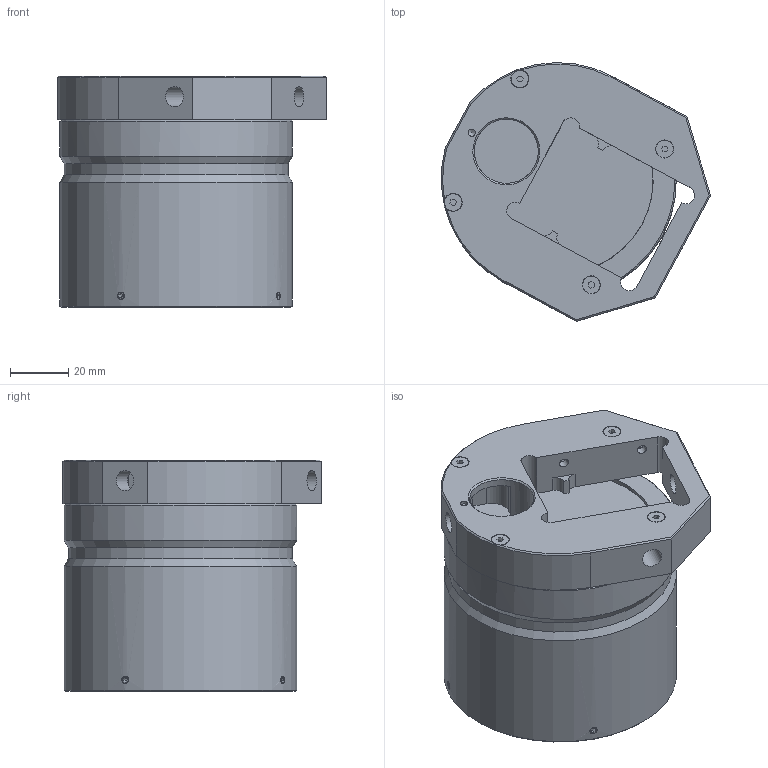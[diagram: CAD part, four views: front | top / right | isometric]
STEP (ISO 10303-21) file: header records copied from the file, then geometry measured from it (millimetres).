
FILE_DESCRIPTION(/* description */ (''),/* implementation_level */ '2;1');
FILE_NAME(/* name */ 'LA_9908_0604_01_A.stp',/* time_stamp */ '2018-07-18T10:39:28+01:00',/* author */ (''),/* organization */ (''),/* preprocessor_version */ 'ST-DEVELOPER v16',/* originating_system */ 'SIEMENS PLM Software NX 10.0',/* authorisation */ '');
FILE_SCHEMA (('AUTOMOTIVE_DESIGN { 1 0 10303 214 3 1 1 1 }'));
Length unit declared in the file: millimetre
Products named in the file (1): dt133C603EA620z2
Bounding box: 92.53 x 88.97 x 79.6 mm (x, y, z)
Volume: 227890.2 mm3; surface area: 81902.9 mm2
Topology: 1 solids, 10 shells, 715 faces, 1909 edges, 1268 vertices
Faces by surface type: plane 481, extrusion 105, cylinder 87, cone 42
Full cylindrical faces by diameter (mm): 1.7 x1, 2 x1, 2.5 x1, 2.6 x12, 3 x4, 3.2 x6, 6 x6, 6.9 x8, 18 x1, 18.5 x1, 22 x1, 64 x1, 66 x1, 70.45 x1, 70.8 x1, 71 x1, 71.9 x2, 72.3 x1, 77 x2, 80 x2
Entity records: 21773 total; most frequent: CARTESIAN_POINT 4944, ORIENTED_EDGE 3480, DIRECTION 3049, EDGE_CURVE 1740, VECTOR 1405, LINE 1300, VERTEX_POINT 1206, EDGE_LOOP 881
